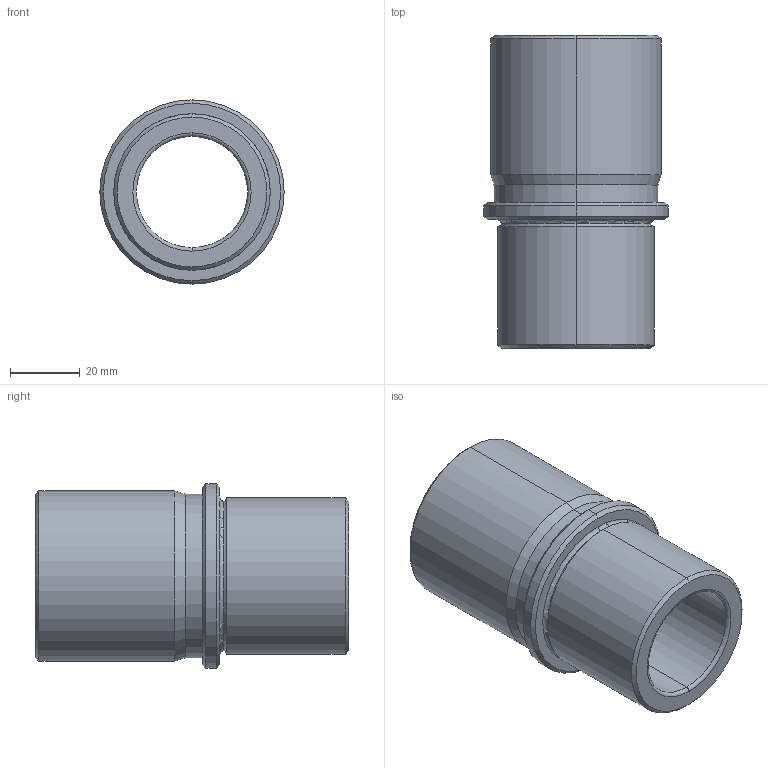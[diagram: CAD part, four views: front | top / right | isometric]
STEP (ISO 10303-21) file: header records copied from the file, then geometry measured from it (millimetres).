
FILE_DESCRIPTION(('CATIA V5 STEP Exchange'),'2;1');
FILE_NAME('C:\Users\Utente\Desktop\IO LAVORO\3D X SITO CF\X SITO\CF 450\CF 450 32x90.stp','2020-12-27T17:54:38+00:00',('none'),('none'),'CATIA Version 5 Release 20 GA (IN-10)','CATIA V5 STEP AP203','none');
FILE_SCHEMA(('CONFIG_CONTROL_DESIGN'));
Length unit declared in the file: millimetre
Products named in the file (1): CF 450 32x90
Bounding box: 53 x 90 x 53 mm (x, y, z)
Volume: 86456.8 mm3; surface area: 25128.5 mm2
Topology: 1 solids, 1 shells, 32 faces, 98 edges, 70 vertices
Faces by surface type: cylinder 10, cone 10, torus 8, plane 4
Entity records: 1236 total; most frequent: CARTESIAN_POINT 313, ORIENTED_EDGE 196, DIRECTION 154, AXIS2_PLACEMENT_3D 103, EDGE_CURVE 98, CIRCLE 70, VERTEX_POINT 70, EDGE_LOOP 36
